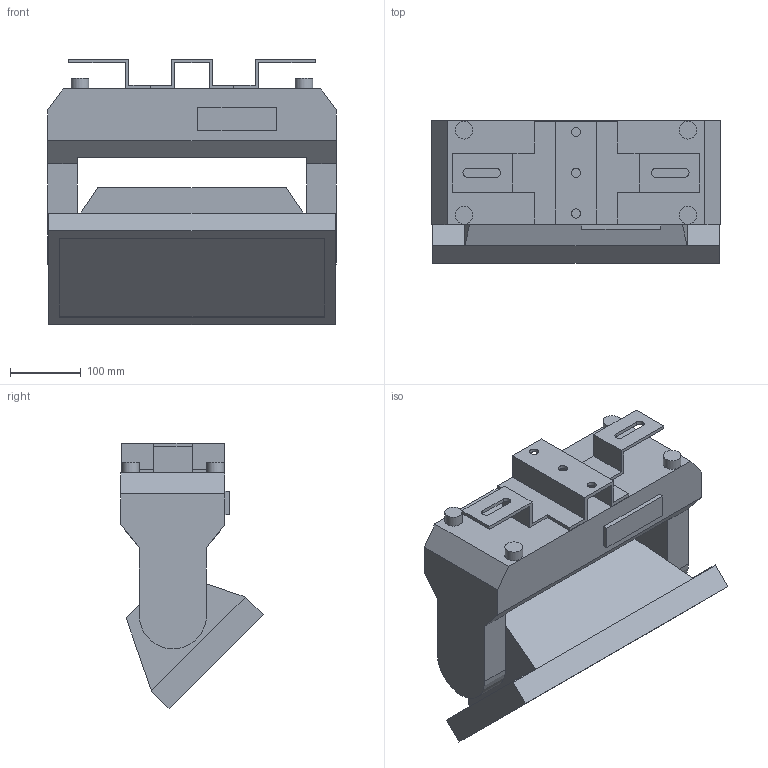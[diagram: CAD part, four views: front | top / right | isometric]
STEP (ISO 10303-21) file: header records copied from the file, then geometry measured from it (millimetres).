
FILE_DESCRIPTION(/* description */ (''),/* implementation_level */ '2;1');
FILE_NAME(/* name */ 'C:\Users\dgooch\Documents\!!CADENG\PRO\Color Strike M\Color Strike M_3D_CAD\Color Strike M_45.step',/* time_stamp */ '2022-07-19T15:40:00-04:00',/* author */ ('dgooch'),/* organization */ (''),/* preprocessor_version */ 'ST-DEVELOPER v19',/* originating_system */ 'Autodesk Inventor 2023',/* authorisation */ '');
FILE_SCHEMA (('AUTOMOTIVE_DESIGN { 1 0 10303 214 3 1 1 }'));
Length unit declared in the file: millimetre
Products named in the file (5): Color Strike M_0; Base (1); Head (1); Bracket (1); CH-CST2000IPC0002 (1)
Assembly tree (4 placements, depth 3):
  Color Strike M_0
    Base (1)
    Head (1)
    Bracket (1)
      CH-CST2000IPC0002 (1)
Bounding box: 407 x 200.88 x 374.89 mm (x, y, z)
Volume: 13652019.4 mm3; surface area: 646239.9 mm2
Topology: 3 solids, 3 shells, 97 faces, 243 edges, 162 vertices
Faces by surface type: plane 80, cylinder 17
Full cylindrical faces by diameter (mm): 13 x3, 25 x4, 54 x4
Entity records: 3089 total; most frequent: CARTESIAN_POINT 511, DIRECTION 489, ORIENTED_EDGE 486, EDGE_CURVE 243, LINE 209, VECTOR 209, VERTEX_POINT 162, AXIS2_PLACEMENT_3D 140
